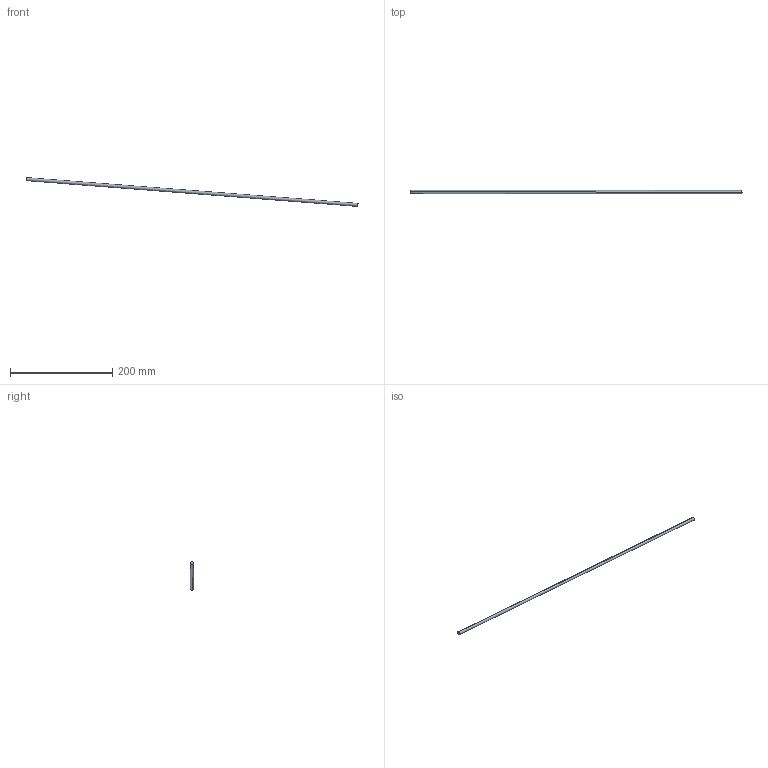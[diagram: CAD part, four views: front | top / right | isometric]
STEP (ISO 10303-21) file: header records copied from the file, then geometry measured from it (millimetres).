
FILE_DESCRIPTION((''),'2;1');
FILE_NAME('0000239489','2025-11-15T12:23:05',('Wyndorps'),(''),'CREO PARAMETRIC BY PTC INC, 2025323','CREO PARAMETRIC BY PTC INC, 2025323','');
FILE_SCHEMA(('CONFIG_CONTROL_DESIGN'));
Length unit declared in the file: millimetre
Products named in the file (1): 0000239489
Bounding box: 649.55 x 6 x 56.31 mm (x, y, z)
Volume: 18369.6 mm3; surface area: 12446.7 mm2
Topology: 1 solids, 2 shells, 11 faces, 24 edges, 15 vertices
Faces by surface type: cylinder 6, plane 3, cone 2
Entity records: 342 total; most frequent: DIRECTION 60, CARTESIAN_POINT 49, ORIENTED_EDGE 40, AXIS2_PLACEMENT_3D 26, EDGE_CURVE 22, VERTEX_POINT 15, CIRCLE 14, EDGE_LOOP 13
